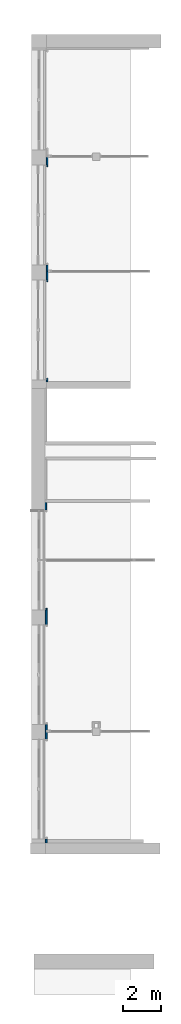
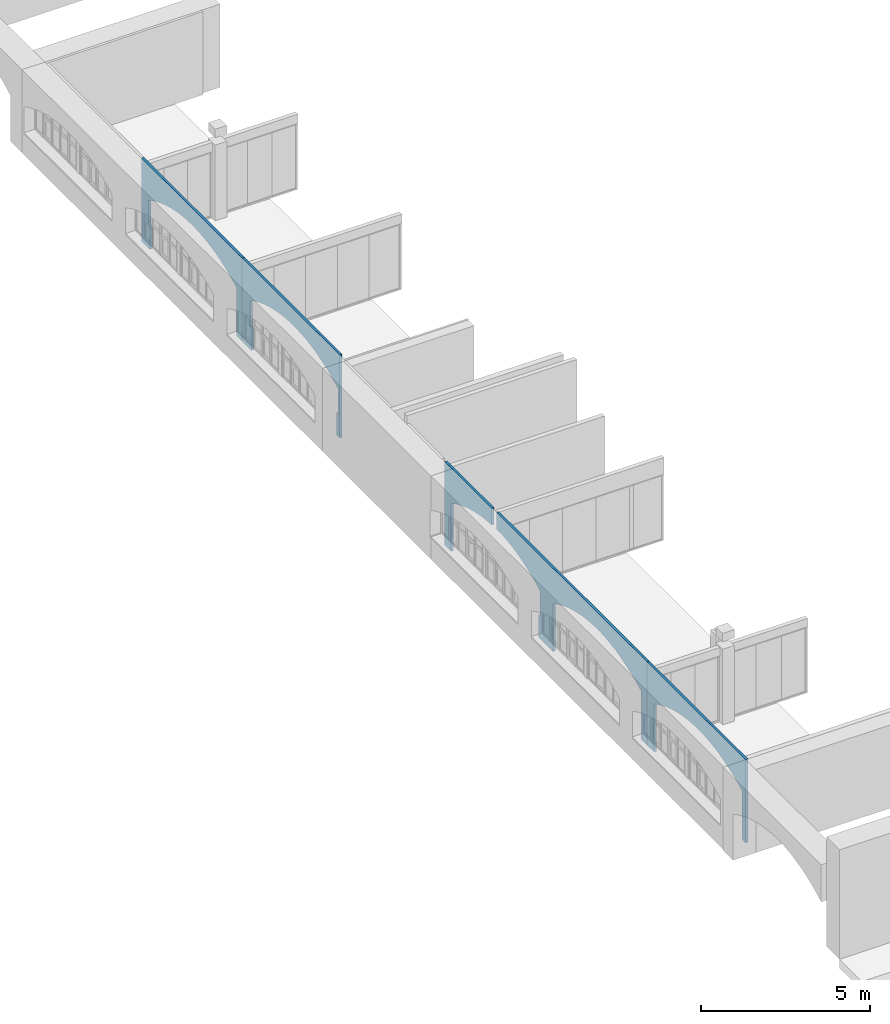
# One storey, part 32 of 32: 5 walls.
"""IFC2X3 building model written with IfcOpenShell, lengths in millimetres."""

from ifc_helpers import new_model, entity, si_unit, converted_unit, derived_unit, direction, frame, origin, place, context, subcontext, project, spatial, faceted_brep, material, layer, layer_set, type_object, element, save


model = new_model("IFC2X3")

# Units and contexts
model_context = context("Model", 3, precision=0.01, world=origin(), true_north=direction((6.123031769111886e-17, 1.0)))
body_context = subcontext(model_context, "Body", "Model", "MODEL_VIEW")
ifc_project = project(units=[si_unit("LENGTHUNIT", "METRE", prefix="MILLI"), si_unit("AREAUNIT", "SQUARE_METRE"), si_unit("VOLUMEUNIT", "CUBIC_METRE"), converted_unit("PLANEANGLEUNIT", "DEGREE", entity("IfcPlaneAngleMeasure", 0.017453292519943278), si_unit("PLANEANGLEUNIT", "RADIAN"), dimensions=[0, 0, 0, 0, 0, 0, 0]), si_unit("MASSUNIT", "GRAM", prefix="KILO"), derived_unit("MASSDENSITYUNIT", [(si_unit("MASSUNIT", "GRAM", prefix="KILO"), 1), (si_unit("LENGTHUNIT", "METRE"), -3)]), derived_unit("IONCONCENTRATIONUNIT", [(si_unit("MASSUNIT", "GRAM", prefix="KILO"), 1), (si_unit("LENGTHUNIT", "METRE"), -3)]), derived_unit("MOMENTOFINERTIAUNIT", [(si_unit("LENGTHUNIT", "METRE"), 4)]), si_unit("TIMEUNIT", "SECOND"), si_unit("FREQUENCYUNIT", "HERTZ"), si_unit("THERMODYNAMICTEMPERATUREUNIT", "DEGREE_CELSIUS"), derived_unit("THERMALTRANSMITTANCEUNIT", [(si_unit("MASSUNIT", "GRAM", prefix="KILO"), 1), (si_unit("THERMODYNAMICTEMPERATUREUNIT", "KELVIN"), -1), (si_unit("TIMEUNIT", "SECOND"), -3)]), derived_unit("THERMALCONDUCTANCEUNIT", [(si_unit("MASSUNIT", "GRAM", prefix="KILO"), 1), (si_unit("THERMODYNAMICTEMPERATUREUNIT", "KELVIN"), -1), (si_unit("TIMEUNIT", "SECOND"), -3), (si_unit("LENGTHUNIT", "METRE"), 1)]), derived_unit("VOLUMETRICFLOWRATEUNIT", [(si_unit("LENGTHUNIT", "METRE", prefix="DECI"), 3), (si_unit("TIMEUNIT", "SECOND"), -1)]), derived_unit("MASSFLOWRATEUNIT", [(si_unit("MASSUNIT", "GRAM", prefix="KILO"), 1), (si_unit("TIMEUNIT", "SECOND"), -1)]), derived_unit("ROTATIONALFREQUENCYUNIT", [(si_unit("TIMEUNIT", "SECOND"), -1)]), si_unit("ELECTRICCURRENTUNIT", "AMPERE"), si_unit("ELECTRICVOLTAGEUNIT", "VOLT"), si_unit("POWERUNIT", "WATT"), si_unit("FORCEUNIT", "NEWTON", prefix="KILO"), si_unit("ILLUMINANCEUNIT", "LUX"), si_unit("LUMINOUSFLUXUNIT", "LUMEN"), si_unit("LUMINOUSINTENSITYUNIT", "CANDELA"), si_unit("ENERGYUNIT", "JOULE"), derived_unit("USERDEFINED", [(si_unit("MASSUNIT", "GRAM", prefix="KILO"), -1), (si_unit("LENGTHUNIT", "METRE"), -2), (si_unit("TIMEUNIT", "SECOND"), 3), (si_unit("LUMINOUSFLUXUNIT", "LUMEN"), 1)]), derived_unit("USERDEFINED", [(si_unit("MASSUNIT", "GRAM", prefix="KILO"), 1), (si_unit("TIMEUNIT", "SECOND"), -3), (si_unit("LENGTHUNIT", "METRE"), 3), (si_unit("ELECTRICCURRENTUNIT", "AMPERE"), -2)]), derived_unit("SOUNDPOWERUNIT", [(si_unit("MASSUNIT", "GRAM", prefix="KILO"), 1), (si_unit("TIMEUNIT", "SECOND"), -3), (si_unit("LENGTHUNIT", "METRE"), 2)]), derived_unit("SOUNDPRESSUREUNIT", [(si_unit("MASSUNIT", "GRAM", prefix="KILO"), 1), (si_unit("LENGTHUNIT", "METRE"), -1), (si_unit("TIMEUNIT", "SECOND"), -2)]), derived_unit("LINEARVELOCITYUNIT", [(si_unit("LENGTHUNIT", "METRE"), 1), (si_unit("TIMEUNIT", "SECOND"), -1)]), si_unit("PRESSUREUNIT", "PASCAL"), derived_unit("USERDEFINED", [(si_unit("MASSUNIT", "GRAM", prefix="KILO"), 1), (si_unit("LENGTHUNIT", "METRE"), -2), (si_unit("TIMEUNIT", "SECOND"), -2)]), derived_unit("LINEARFORCEUNIT", [(si_unit("MASSUNIT", "GRAM", prefix="KILO"), 1), (si_unit("TIMEUNIT", "SECOND"), -2)]), derived_unit("PLANARFORCEUNIT", [(si_unit("MASSUNIT", "GRAM", prefix="KILO"), 1), (si_unit("LENGTHUNIT", "METRE"), -1), (si_unit("TIMEUNIT", "SECOND"), -2)]), derived_unit("SPECIFICHEATCAPACITYUNIT", [(si_unit("THERMODYNAMICTEMPERATUREUNIT", "KELVIN"), -1), (si_unit("LENGTHUNIT", "METRE"), 2), (si_unit("TIMEUNIT", "SECOND"), -2)]), derived_unit("HEATFLUXDENSITYUNIT", [(si_unit("MASSUNIT", "GRAM", prefix="KILO"), 1), (si_unit("TIMEUNIT", "SECOND"), -3)]), derived_unit("HEATINGVALUEUNIT", [(si_unit("LENGTHUNIT", "METRE"), 2), (si_unit("TIMEUNIT", "SECOND"), -2)]), derived_unit("VAPORPERMEABILITYUNIT", [(si_unit("LENGTHUNIT", "METRE"), -1), (si_unit("TIMEUNIT", "SECOND"), 1)]), derived_unit("DYNAMICVISCOSITYUNIT", [(si_unit("MASSUNIT", "GRAM", prefix="KILO"), 1), (si_unit("TIMEUNIT", "SECOND"), -1), (si_unit("LENGTHUNIT", "METRE"), -1)]), derived_unit("THERMALEXPANSIONCOEFFICIENTUNIT", [(si_unit("THERMODYNAMICTEMPERATUREUNIT", "KELVIN"), -1)]), derived_unit("MODULUSOFELASTICITYUNIT", [(si_unit("MASSUNIT", "GRAM", prefix="KILO"), 1), (si_unit("LENGTHUNIT", "METRE"), -1), (si_unit("TIMEUNIT", "SECOND"), -2)]), derived_unit("ISOTHERMALMOISTURECAPACITYUNIT", [(si_unit("MASSUNIT", "GRAM", prefix="KILO"), -1), (si_unit("LENGTHUNIT", "METRE"), 3)]), derived_unit("MOISTUREDIFFUSIVITYUNIT", [(si_unit("TIMEUNIT", "SECOND"), -1), (si_unit("LENGTHUNIT", "METRE"), 2)]), derived_unit("MASSPERLENGTHUNIT", [(si_unit("MASSUNIT", "GRAM", prefix="KILO"), 1), (si_unit("LENGTHUNIT", "METRE"), -1)]), derived_unit("THERMALRESISTANCEUNIT", [(si_unit("MASSUNIT", "GRAM", prefix="KILO"), -1), (si_unit("TIMEUNIT", "SECOND"), 3), (si_unit("THERMODYNAMICTEMPERATUREUNIT", "KELVIN"), 1)]), derived_unit("ACCELERATIONUNIT", [(si_unit("LENGTHUNIT", "METRE"), 1), (si_unit("TIMEUNIT", "SECOND"), -2)]), derived_unit("ANGULARVELOCITYUNIT", [(si_unit("TIMEUNIT", "SECOND"), -1), (si_unit("PLANEANGLEUNIT", "RADIAN"), 1)]), derived_unit("LINEARSTIFFNESSUNIT", [(si_unit("MASSUNIT", "GRAM", prefix="KILO"), 1), (si_unit("TIMEUNIT", "SECOND"), -2)]), derived_unit("WARPINGCONSTANTUNIT", [(si_unit("LENGTHUNIT", "METRE"), 6)]), derived_unit("LINEARMOMENTUNIT", [(si_unit("MASSUNIT", "GRAM", prefix="KILO"), 1), (si_unit("LENGTHUNIT", "METRE"), 1), (si_unit("TIMEUNIT", "SECOND"), -2)]), derived_unit("TORQUEUNIT", [(si_unit("MASSUNIT", "GRAM", prefix="KILO"), 1), (si_unit("LENGTHUNIT", "METRE"), 2), (si_unit("TIMEUNIT", "SECOND"), -2)])], contexts=[model_context])

# Site, building, storey
site_placement = place(None, origin())
site = spatial("IfcSite", under=ifc_project, at=site_placement, Name="Default", CompositionType="ELEMENT")
building_placement = place(site_placement, origin())
building = spatial("IfcBuilding", under=site, at=building_placement, Name="Eesti Rahvusraamatukogu hoone renoveerimise projekteerimistööd", CompositionType="ELEMENT")
storey_placement = place(building_placement, frame((0.0, 0.0, 4950.000000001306)))
storey = spatial("IfcBuildingStorey", under=building, at=storey_placement, Name="2. korrus", CompositionType="ELEMENT", Elevation=4950.000000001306)

# Walls
ifc_material_1 = material(Name="EST. Soojustus.PIR_Powerwall Pro")
ifc_layer_1 = layer(ifc_material_1, 30.0)
ifc_material_2 = material(Name="EST. Metall. Alumiinium. Mütsprofiil.")
ifc_layer_2 = layer(ifc_material_2, 42.0)
ifc_material_3 = material(Name="EST. Ehitusplaat. Kipsplaat")
ifc_layer_3 = layer(ifc_material_3, 12.5)
ifc_layer_set = layer_set([ifc_layer_1, ifc_layer_2, ifc_layer_3], Name="Basic Wall:VS-03.1 - soojustus")
wall_type = type_object("IfcWallType", Name="Basic Wall:VS-03.1 - soojustus", PredefinedType="STANDARD", material=ifc_layer_set)
wall_1_placement = place(storey_placement, frame((-35997.74999999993, 6590.0, 0.0), z_axis=(0.0, 0.0, 1.0), x_axis=(0.0, 1.0, 0.0)))
element("IfcWall", 1, at=wall_1_placement, inside=storey, type_object=wall_type, Name="Basic Wall:VS-03.1 - soojustus", ObjectType="Basic Wall:VS-03.1 - soojustus", context=body_context, shape_type="Brep", body=[
    faceted_brep([(0.0, -42.250000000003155, 1.9990693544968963e-09), (165.0, -42.25000000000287, 1.9990693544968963e-09), (206.59999999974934, -42.2500000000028, 1.9990693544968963e-09), (206.59999999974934, -42.2500000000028, 800.0), (206.59999999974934, -42.2500000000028, 1730.0), (206.59999999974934, -42.2500000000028, 1753.0777799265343), (424.03070207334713, -42.25000000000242, 1864.2817537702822), (646.2827142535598, -42.25000000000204, 1965.5026460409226), (872.8992311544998, -42.25000000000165, 2056.532556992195), (1103.4129333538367, -42.25000000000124, 2137.183833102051), (1337.3488662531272, -42.25000000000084, 2207.2903790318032), (1574.2250335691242, -42.25000000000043, 2266.707813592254), (1813.5533889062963, -42.25000000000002, 2315.3137664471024), (2054.8408397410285, -42.2499999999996, 2353.008129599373), (2297.590261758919, -42.24999999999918, 2379.713263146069), (2541.3015214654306, -42.24999999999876, 2395.3741548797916), (2785.474999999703, -42.24999999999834, 2399.9585236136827), (3034.019966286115, -42.249999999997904, 2395.190973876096), (3282.0793423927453, -42.24999999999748, 2378.9467218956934), (3529.1234685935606, -42.24999999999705, 2351.2604526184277), (3774.6248529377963, -42.249999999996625, 2312.1912821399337), (4018.059297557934, -42.25000000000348, 2261.8226314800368), (4258.907017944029, -42.25000000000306, 2200.2620484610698), (4496.653752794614, -42.25000000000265, 2127.640978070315), (4730.79186207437, -42.250000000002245, 2044.1144817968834), (4960.821410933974, -42.25000000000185, 1949.8609065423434), (5186.251237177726, -42.250000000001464, 1845.08150381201), (5406.599999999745, -42.25000000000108, 1730.0), (5406.599999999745, -42.25000000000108, 800.0), (5406.599999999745, -42.25000000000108, 0.0), (5830.0, -42.25000000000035, 0.0), (5830.0, -42.25000000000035, 3000.0), (165.0, -42.25000000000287, 3000.0), (0.0, -42.250000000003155, 3000.0), (5830.0, 42.24999999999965, 0.0), (5406.599999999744, 42.24999999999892, 0.0), (5406.599999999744, 42.24999999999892, 800.0), (5406.599999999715, 42.24999999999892, 1730.0), (5186.251237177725, 42.249999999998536, 1845.08150381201), (4960.821410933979, 42.24999999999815, 1949.8609065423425), (4730.7918620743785, 42.249999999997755, 2044.1144817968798), (4496.6537527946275, 42.24999999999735, 2127.6409780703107), (4258.9070179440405, 42.24999999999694, 2200.262048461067), (4018.059297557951, 42.24999999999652, 2261.822631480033), (3774.6248529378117, 42.250000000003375, 2312.19128213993), (3529.1234685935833, 42.25000000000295, 2351.260452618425), (3282.0793423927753, 42.25000000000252, 2378.9467218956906), (3034.0199662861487, 42.250000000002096, 2395.190973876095), (2785.474999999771, 42.25000000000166, 2399.9585236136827), (2541.3015214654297, 42.25000000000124, 2395.3741548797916), (2297.5902617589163, 42.25000000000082, 2379.713263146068), (2054.8408397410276, 42.2500000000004, 2353.0081295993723), (1813.5533889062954, 42.24999999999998, 2315.3137664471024), (1574.2250335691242, 42.24999999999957, 2266.707813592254), (1337.3488662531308, 42.24999999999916, 2207.2903790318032), (1103.4129333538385, 42.24999999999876, 2137.1838331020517), (872.8992311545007, 42.24999999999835, 2056.532556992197), (646.2827142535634, 42.24999999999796, 1965.5026460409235), (424.03070207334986, 42.24999999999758, 1864.281753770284), (206.59999999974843, 42.2499999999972, 1753.0777799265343), (206.59999999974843, 42.2499999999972, 1730.0), (206.59999999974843, 42.2499999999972, 800.0), (206.59999999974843, 42.2499999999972, 1.9990693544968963e-09), (0.0, 42.249999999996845, 1.9990693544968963e-09), (0.0, 42.249999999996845, 3000.0), (5830.0, 42.24999999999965, 3000.0), (5406.599999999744, 41.762945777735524, 0.0), (206.59999999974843, 41.76294577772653, 1.9990693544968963e-09)], [[[0, 1, 2, 3, 4, 5, 6, 7, 8, 9, 10, 11, 12, 13, 14, 15, 16, 17, 18, 19, 20, 21, 22, 23, 24, 25, 26, 27, 28, 29, 30, 31, 32, 33]], [[34, 35, 36, 37, 38, 39, 40, 41, 42, 43, 44, 45, 46, 47, 48, 49, 50, 51, 52, 53, 54, 55, 56, 57, 58, 59, 60, 61, 62, 63, 64, 65]], [[63, 0, 33, 64]], [[30, 29, 66, 35, 34]], [[1, 0, 63, 62, 67, 2]], [[31, 30, 34, 65]], [[32, 31, 65, 64, 33]], [[26, 25, 39, 38]], [[27, 26, 38, 37]], [[23, 22, 42, 41]], [[24, 23, 41, 40]], [[25, 24, 40, 39]], [[22, 21, 43, 42]], [[20, 19, 45, 44]], [[21, 20, 44, 43]], [[17, 16, 48, 47]], [[18, 17, 47, 46]], [[19, 18, 46, 45]], [[6, 5, 59, 58]], [[6, 58, 57, 7]], [[9, 8, 56, 55]], [[56, 8, 7, 57]], [[10, 9, 55, 54]], [[54, 53, 11, 10]], [[12, 11, 53, 52]], [[12, 52, 51, 13]], [[15, 14, 50, 49]], [[50, 14, 13, 51]], [[16, 15, 49, 48]], [[67, 62, 61, 60, 59, 5, 4, 3, 2]], [[66, 29, 28, 27, 37, 36, 35]]]),
])
wall_2_placement = place(storey_placement, frame((-35997.74999999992, 12420.0, 0.0), z_axis=(0.0, 0.0, 1.0), x_axis=(0.0, 1.0, 0.0)))
element("IfcWall", 2, at=wall_2_placement, inside=storey, type_object=wall_type, Name="Basic Wall:VS-03.1 - soojustus", ObjectType="Basic Wall:VS-03.1 - soojustus", context=body_context, shape_type="Brep", body=[
    faceted_brep([(0.0, -42.250000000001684, 0.0), (348.69559197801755, -42.25000000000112, 0.0), (348.69559197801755, -42.25000000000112, 800.0), (348.69559197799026, -42.25000000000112, 1730.0), (577.8614910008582, -42.250000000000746, 1849.420165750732), (812.4976425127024, -42.25000000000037, 1957.6978719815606), (1052.0626678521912, -42.24999999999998, 2054.583288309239), (1296.0038159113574, -42.24999999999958, 2139.8528699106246), (1543.7582385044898, -42.24999999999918, 2213.3098733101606), (1794.7542890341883, -42.24999999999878, 2274.784810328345), (2048.4128414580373, -42.249999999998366, 2324.1358391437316), (2304.1486265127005, -42.24999999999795, 2361.249091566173), (2561.3715821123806, -42.249999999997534, 2386.0389357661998), (2819.488214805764, -42.249999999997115, 2398.448173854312), (3077.9029691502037, -42.249999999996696, 2398.4481738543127), (3336.019601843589, -42.24999999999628, 2386.0389357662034), (3593.242557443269, -42.24999999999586, 2361.2490915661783), (3848.9783424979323, -42.249999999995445, 2324.135839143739), (4102.636894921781, -42.25000000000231, 2274.784810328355), (4353.6329454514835, -42.250000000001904, 2213.3098733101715), (4601.387368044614, -42.2500000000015, 2139.852869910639), (4845.32851610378, -42.2500000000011, 2054.5832883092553), (5084.893541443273, -42.25000000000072, 1957.697871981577), (5319.52969295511, -42.250000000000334, 1849.4201657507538), (5548.695591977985, -42.249999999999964, 1730.0), (5548.695591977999, -42.249999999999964, 800.0), (5548.695591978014, -42.249999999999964, 0.0), (6413.195591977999, -42.249999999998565, 0.0), (6413.195591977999, -42.249999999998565, 800.0), (6328.695591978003, -42.2499999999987, 800.0), (6328.695591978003, -42.2499999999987, 1730.0), (6543.679302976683, -42.24999999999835, 1842.4317147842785), (6763.513385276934, -42.25000000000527, 1945.0565789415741), (6987.750765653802, -42.2500000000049, 2037.6658858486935), (7215.935415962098, -42.25000000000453, 2120.0712973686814), (7447.603280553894, -42.25000000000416, 2192.1052268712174), (7682.283220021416, -42.25000000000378, 2253.6211800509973), (7919.497969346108, -42.250000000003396, 2304.494052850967), (8158.765108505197, -42.250000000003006, 2344.620385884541), (8399.59804356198, -42.250000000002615, 2373.9185748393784), (8641.50699624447, -42.250000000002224, 2392.329036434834), (8884.0, -42.25000000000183, 2399.814329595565), (8884.0, -42.25000000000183, 3000.0), (0.0, -42.250000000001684, 3000.0), (6328.695591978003, 42.2500000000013, 1730.0), (6328.695591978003, 42.2500000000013, 0.0), (5548.695591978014, 42.250000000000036, 0.0), (5548.695591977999, 42.250000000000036, 800.0), (5548.695591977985, 42.250000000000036, 1730.0), (5319.52969295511, 42.249999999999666, 1849.4201657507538), (5084.893541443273, 42.24999999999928, 1957.697871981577), (4845.32851610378, 42.2499999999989, 2054.5832883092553), (4601.387368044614, 42.2499999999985, 2139.852869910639), (4353.6329454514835, 42.249999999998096, 2213.3098733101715), (4102.636894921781, 42.24999999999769, 2274.784810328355), (3848.9783424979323, 42.24999999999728, 2324.135839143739), (3593.242557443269, 42.24999999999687, 2361.2490915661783), (3336.019601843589, 42.24999999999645, 2386.0389357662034), (3077.9029691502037, 42.24999999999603, 2398.4481738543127), (2819.488214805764, 42.24999999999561, 2398.448173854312), (2561.3715821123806, 42.24999999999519, 2386.0389357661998), (2304.1486265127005, 42.24999999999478, 2361.249091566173), (2048.4128414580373, 42.24999999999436, 2324.1358391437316), (1794.7542890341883, 42.249999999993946, 2274.784810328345), (1543.7582385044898, 42.24999999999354, 2213.3098733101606), (1296.0038159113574, 42.25000000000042, 2139.8528699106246), (1052.0626678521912, 42.25000000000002, 2054.583288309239), (812.4976425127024, 42.24999999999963, 1957.6978719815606), (577.8614910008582, 42.249999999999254, 1849.420165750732), (348.69559197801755, 42.24999999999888, 1730.0), (348.69559197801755, 42.24999999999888, 800.0), (348.69559197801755, 42.24999999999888, 0.0), (0.0, 42.249999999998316, 0.0), (0.0, 42.249999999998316, 3000.0), (8884.0, 42.24999999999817, 3000.0), (8884.0, 42.24999999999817, 2399.8143295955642), (8641.50699624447, 42.249999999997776, 2392.329036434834), (8399.59804356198, 42.249999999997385, 2373.9185748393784), (8158.765108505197, 42.249999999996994, 2344.620385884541), (7919.497969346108, 42.249999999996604, 2304.494052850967), (7682.283220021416, 42.24999999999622, 2253.6211800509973), (7447.603280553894, 42.24999999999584, 2192.1052268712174), (7215.935415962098, 42.24999999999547, 2120.0712973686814), (6987.750765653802, 42.2499999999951, 2037.6658858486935), (6763.513385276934, 42.24999999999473, 1945.0565789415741), (6543.679302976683, 42.25000000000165, 1842.4317147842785), (348.69559197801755, 41.762945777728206, 0.0), (5548.695591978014, 41.76294577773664, 0.0), (6328.695591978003, 41.76294577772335, 0.0), (6413.195591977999, 41.76294577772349, 0.0), (6328.695591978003, 41.76294577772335, 800.0), (6413.195591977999, 41.76294577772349, 800.0)], [[[0, 1, 2, 3, 4, 5, 6, 7, 8, 9, 10, 11, 12, 13, 14, 15, 16, 17, 18, 19, 20, 21, 22, 23, 24, 25, 26, 27, 28, 29, 30, 31, 32, 33, 34, 35, 36, 37, 38, 39, 40, 41, 42, 43]], [[44, 45, 46, 47, 48, 49, 50, 51, 52, 53, 54, 55, 56, 57, 58, 59, 60, 61, 62, 63, 64, 65, 66, 67, 68, 69, 70, 71, 72, 73, 74, 75, 76, 77, 78, 79, 80, 81, 82, 83, 84, 85]], [[1, 0, 72, 71, 86]], [[27, 26, 87, 46, 45, 88, 89]], [[42, 41, 75, 74]], [[43, 42, 74, 73]], [[0, 43, 73, 72]], [[40, 39, 77, 76]], [[41, 40, 76, 75]], [[37, 36, 80, 79]], [[38, 37, 79, 78]], [[39, 38, 78, 77]], [[36, 35, 81, 80]], [[34, 33, 83, 82]], [[35, 34, 82, 81]], [[31, 30, 44, 85]], [[32, 31, 85, 84]], [[33, 32, 84, 83]], [[29, 90, 88, 45, 44, 30]], [[90, 29, 28, 91]], [[6, 5, 67, 66]], [[4, 3, 69, 68]], [[4, 68, 67, 5]], [[7, 6, 66, 65]], [[11, 10, 62, 61]], [[12, 11, 61, 60]], [[9, 8, 64, 63]], [[10, 9, 63, 62]], [[7, 65, 64, 8]], [[13, 12, 60, 59]], [[59, 58, 14, 13]], [[17, 16, 56, 55]], [[15, 14, 58, 57]], [[15, 57, 56, 16]], [[18, 17, 55, 54]], [[22, 21, 51, 50]], [[23, 22, 50, 49]], [[20, 19, 53, 52]], [[21, 20, 52, 51]], [[18, 54, 53, 19]], [[24, 23, 49, 48]], [[25, 24, 48, 47, 46, 87, 26]], [[2, 1, 86, 71, 70, 69, 3]], [[88, 90, 91, 89]], [[28, 27, 89, 91]]]),
])
wall_3_placement = place(storey_placement, frame((-36018.77521300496, 21561.510600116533, 0.0), z_axis=(0.0, 0.0, 1.0), x_axis=(0.0, 1.0, 0.0)))
element("IfcWall", 3, at=wall_3_placement, inside=storey, type_object=wall_type, Name="Basic Wall:VS-03.1 - soojustus", ObjectType="Basic Wall:VS-03.1 - soojustus", context=body_context, shape_type="Brep", body=[
    faceted_brep([(2778.4893998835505, -42.24999999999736, 0.0), (2778.4893998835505, -42.24999999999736, 3000.0), (0.0, -42.24999999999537, 3000.0), (0.0, -42.24999999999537, 2395.789047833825), (249.55892571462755, -42.24999999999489, 2380.0934163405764), (498.1189430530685, -42.249999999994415, 2352.8183722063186), (745.1430652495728, -42.249999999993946, 2314.0228401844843), (990.0976236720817, -42.24999999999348, 2263.790633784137), (1232.4534207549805, -42.24999999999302, 2202.2302742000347), (1471.686873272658, -42.24999999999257, 2129.474755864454), (1707.2811434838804, -42.24999999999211, 2045.6812591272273), (1938.727255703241, -42.24999999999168, 1951.030810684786), (2165.525195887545, -42.249999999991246, 1845.7278924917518), (2387.1849918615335, -42.249999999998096, 1730.0), (2387.1849918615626, -42.249999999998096, 0.0), (0.0, 42.25000000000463, 3000.0), (2778.4893998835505, 42.25000000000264, 3000.0), (2778.4893998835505, 42.25000000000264, 0.0), (2387.1849918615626, 42.250000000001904, 0.0), (2387.1849918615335, 42.250000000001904, 1730.0), (2165.525195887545, 42.25000000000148, 1845.7278924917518), (1938.727255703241, 42.250000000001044, 1951.030810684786), (1707.2811434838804, 42.25000000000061, 2045.6812591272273), (1471.686873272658, 42.250000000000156, 2129.474755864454), (1232.4534207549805, 42.2499999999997, 2202.2302742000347), (990.0976236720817, 42.24999999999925, 2263.790633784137), (745.1430652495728, 42.24999999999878, 2314.0228401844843), (498.1189430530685, 42.24999999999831, 2352.8183722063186), (249.55892571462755, 42.24999999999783, 2380.0934163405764), (0.0, 42.25000000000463, 2395.789047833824)], [[[0, 1, 2, 3, 4, 5, 6, 7, 8, 9, 10, 11, 12, 13, 14]], [[15, 16, 17, 18, 19, 20, 21, 22, 23, 24, 25, 26, 27, 28, 29]], [[0, 14, 18, 17]], [[1, 0, 17, 16]], [[2, 1, 16, 15]], [[3, 2, 15, 29]], [[14, 13, 19, 18]], [[4, 3, 29, 28]], [[6, 5, 27, 26]], [[27, 5, 4, 28]], [[7, 6, 26, 25]], [[25, 24, 8, 7]], [[10, 9, 23, 22]], [[12, 11, 21, 20]], [[21, 11, 10, 22]], [[13, 12, 20, 19]], [[8, 24, 23, 9]]]),
])
wall_4_placement = place(storey_placement, frame((-35957.7499999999, 30655.0, 0.0), z_axis=(0.0, 0.0, 1.0), x_axis=(0.0, 1.0, 0.0)))
element("IfcWall", 4, at=wall_4_placement, inside=storey, type_object=wall_type, Name="Basic Wall:VS-03.1 - soojustus", ObjectType="Basic Wall:VS-03.1 - soojustus", context=body_context, shape_type="Brep", body=[
    faceted_brep([(5215.9402919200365, 42.250000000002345, 800.0), (5215.9402919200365, 42.250000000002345, 0.0), (5215.9402919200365, -42.249999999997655, 0.0), (5215.9402919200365, -42.249999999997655, 800.0), (5215.940291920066, 42.250000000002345, 1797.7782269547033), (5215.940291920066, 42.250000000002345, 1775.6682178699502), (5215.9402919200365, -42.249999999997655, 1775.6682178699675), (5215.940291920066, -42.249999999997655, 1797.7782269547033), (5300.4402919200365, 42.25000000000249, 800.0), (5300.440291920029, -42.24999999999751, 800.0), (184.9402919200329, 42.25000000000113, 800.0), (100.44029192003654, 42.25000000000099, 800.0), (100.44029192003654, -42.24999999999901, 800.0), (184.9402919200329, -42.24999999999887, 800.0), (2473.02032563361, -42.249999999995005, 2395.1909738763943), (2224.9609495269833, -42.249999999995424, 2378.94672189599), (2224.960949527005, 42.2499999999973, 2378.9467218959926), (2473.020325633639, 42.24999999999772, 2395.190973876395), (2721.565291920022, -42.249999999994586, 2399.958523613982), (2721.565291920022, 42.24999999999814, 2399.958523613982), (1732.4154389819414, -42.249999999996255, 2312.1912821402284), (1488.980994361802, -42.24999999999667, 2261.8226314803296), (1488.9809943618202, 42.24999999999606, 2261.822631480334), (1732.4154389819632, 42.24999999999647, 2312.191282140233), (1977.916823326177, -42.24999999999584, 2351.2604526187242), (1977.9168233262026, 42.24999999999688, 2351.260452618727), (1248.133273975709, -42.24999999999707, 2200.2620484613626), (1248.1332739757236, 42.25000000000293, 2200.262048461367), (1010.3865391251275, -42.24999999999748, 2127.640978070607), (776.2484298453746, -42.249999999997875, 2044.1144817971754), (776.2484298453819, 42.250000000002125, 2044.114481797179), (1010.3865391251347, 42.25000000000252, 2127.64097807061), (320.7890547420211, -42.24999999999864, 1845.081503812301), (100.44029192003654, -42.24999999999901, 1730.0), (100.44029192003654, 42.25000000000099, 1730.0), (320.78905474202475, 42.25000000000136, 1845.0815038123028), (546.2188809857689, -42.24999999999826, 1949.8609065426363), (546.2188809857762, 42.25000000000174, 1949.860906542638), (0.0, -42.24999999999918, 0.0), (184.9402919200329, -42.24999999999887, 0.0), (2980.5843927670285, -42.24999999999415, 2394.7375787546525), (3239.05557668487, -42.24999999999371, 2377.0524758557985), (3496.37565376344, -42.24999999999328, 2346.944210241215), (3751.947866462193, -42.24999999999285, 2304.4826027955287), (4005.1795104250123, -42.249999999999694, 2249.766123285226), (4255.483309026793, -42.249999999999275, 2182.921662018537), (4502.278775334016, -42.249999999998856, 2104.104235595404), (4744.99355832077, -42.24999999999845, 2013.4966274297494), (4983.064755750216, -42.249999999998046, 1911.308970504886), (5258.292214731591, -42.249999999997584, 1753.0226969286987), (5300.440291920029, -42.24999999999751, 1730.0), (5765.0, -42.249999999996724, 0.0), (5765.0, -42.249999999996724, 3000.0), (0.0, -42.24999999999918, 3000.0), (5765.0, 42.250000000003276, 0.0), (5300.440291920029, 42.25000000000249, 0.0), (5300.44029192, 42.25000000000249, 1730.0), (5258.292214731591, 42.250000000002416, 1753.0226969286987), (4983.064755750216, 42.250000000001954, 1911.308970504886), (4744.99355832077, 42.25000000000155, 2013.4966274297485), (4502.278775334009, 42.250000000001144, 2104.104235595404), (4255.483309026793, 42.250000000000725, 2182.92166201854), (4005.1795104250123, 42.250000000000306, 2249.766123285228), (3751.947866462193, 42.24999999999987, 2304.4826027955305), (3496.37565376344, 42.249999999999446, 2346.944210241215), (3239.05557668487, 42.24999999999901, 2377.0524758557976), (2980.584392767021, 42.24999999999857, 2394.7375787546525), (184.9402919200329, 42.25000000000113, 0.0), (100.44029192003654, 42.25000000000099, 0.0), (0.0, 42.25000000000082, 0.0), (0.0, 42.25000000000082, 3000.0), (5765.0, 42.250000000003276, 3000.0)], [[[0, 1, 2, 3]], [[4, 5, 6, 7]], [[8, 0, 3, 9]], [[10, 11, 12, 13]], [[14, 15, 16, 17]], [[18, 14, 17, 19]], [[20, 21, 22, 23]], [[24, 20, 23, 25]], [[15, 24, 25, 16]], [[21, 26, 27, 22]], [[28, 29, 30, 31]], [[26, 28, 31, 27]], [[32, 33, 34, 35]], [[36, 32, 35, 37]], [[29, 36, 37, 30]], [[38, 39, 13, 12, 33, 32, 36, 29, 28, 26, 21, 20, 24, 15, 14, 18, 40, 41, 42, 43, 44, 45, 46, 47, 48, 7, 6, 49, 50, 9, 3, 2, 51, 52, 53]], [[54, 55, 1, 0, 8, 56, 57, 5, 4, 58, 59, 60, 61, 62, 63, 64, 65, 66, 19, 17, 16, 25, 23, 22, 27, 31, 30, 37, 35, 34, 11, 10, 67, 68, 69, 70, 71]], [[69, 38, 53, 70]], [[52, 51, 54, 71]], [[53, 52, 71, 70]], [[8, 9, 50, 56]], [[49, 57, 56, 50]], [[6, 5, 57, 49]], [[34, 33, 12, 11]], [[40, 18, 19, 66]], [[42, 41, 65, 64]], [[65, 41, 40, 66]], [[43, 42, 64, 63]], [[63, 62, 44, 43]], [[46, 45, 61, 60]], [[48, 47, 59, 58]], [[59, 47, 46, 60]], [[7, 48, 58, 4]], [[44, 62, 61, 45]], [[39, 38, 69, 68, 67]], [[51, 2, 1, 55, 54]], [[13, 39, 67, 10]]]),
])
wall_5_placement = place(storey_placement, frame((-35957.74999999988, 36420.0, 0.0), z_axis=(0.0, 0.0, 1.0), x_axis=(0.0, 1.0, 0.0)))
element("IfcWall", 5, at=wall_5_placement, inside=storey, type_object=wall_type, Name="Basic Wall:VS-03.1 - soojustus", ObjectType="Basic Wall:VS-03.1 - soojustus", context=body_context, shape_type="Brep", body=[
    faceted_brep([(0.0, -42.249999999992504, 0.0), (337.50000000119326, -42.249999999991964, 0.0), (337.50000000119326, -42.249999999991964, 1730.0), (566.6658990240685, -42.249999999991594, 1849.4201657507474), (801.3020505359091, -42.24999999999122, 1957.6978719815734), (1040.8670758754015, -42.249999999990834, 2054.5832883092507), (1284.8082239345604, -42.24999999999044, 2139.8528699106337), (1532.5626465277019, -42.24999999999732, 2213.3098733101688), (1783.5586970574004, -42.249999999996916, 2274.7848103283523), (2037.2172494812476, -42.24999999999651, 2324.135839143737), (2292.953034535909, -42.2499999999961, 2361.2490915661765), (2550.175990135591, -42.24999999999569, 2386.0389357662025), (2808.2926228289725, -42.249999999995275, 2398.4481738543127), (3066.707377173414, -42.24999999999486, 2398.448173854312), (3324.8240098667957, -42.24999999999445, 2386.0389357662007), (3582.0469654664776, -42.24999999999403, 2361.2490915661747), (3837.782750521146, -42.249999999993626, 2324.1358391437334), (4091.4413029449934, -42.25000000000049, 2274.7848103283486), (4342.437353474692, -42.25000000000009, 2213.3098733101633), (4590.191776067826, -42.249999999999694, 2139.8528699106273), (4834.132924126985, -42.249999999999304, 2054.5832883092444), (5073.697949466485, -42.24999999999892, 1957.6978719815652), (5308.334100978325, -42.24999999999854, 1849.4201657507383), (5537.500000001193, -42.249999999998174, 1730.0), (5537.500000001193, -42.249999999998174, 800.0), (5453.0000000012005, -42.24999999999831, 800.0), (5453.000000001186, -42.24999999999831, 0.0), (5955.0, -42.249999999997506, 0.0), (5955.0, -42.249999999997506, 3000.0), (0.0, -42.249999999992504, 3000.0), (5955.0, 42.250000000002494, 0.0), (5537.500000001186, 42.250000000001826, 0.0), (5453.000000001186, 42.25000000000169, 0.0), (5453.0000000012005, 42.25000000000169, 800.0), (5537.500000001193, 42.250000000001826, 800.0), (5537.500000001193, 42.250000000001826, 1730.0), (5308.334100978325, 42.25000000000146, 1849.4201657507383), (5073.697949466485, 42.25000000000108, 1957.6978719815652), (4834.132924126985, 42.250000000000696, 2054.5832883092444), (4590.191776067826, 42.250000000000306, 2139.8528699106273), (4342.437353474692, 42.24999999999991, 2213.3098733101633), (4091.4413029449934, 42.24999999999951, 2274.7848103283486), (3837.782750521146, 42.250000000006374, 2324.1358391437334), (3582.0469654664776, 42.25000000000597, 2361.2490915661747), (3324.8240098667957, 42.25000000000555, 2386.0389357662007), (3066.707377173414, 42.25000000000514, 2398.448173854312), (2808.2926228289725, 42.250000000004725, 2398.4481738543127), (2550.175990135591, 42.25000000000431, 2386.0389357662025), (2292.953034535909, 42.2500000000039, 2361.2490915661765), (2037.2172494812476, 42.25000000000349, 2324.135839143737), (1783.5586970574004, 42.250000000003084, 2274.7848103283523), (1532.5626465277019, 42.25000000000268, 2213.3098733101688), (1284.8082239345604, 42.25000000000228, 2139.8528699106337), (1040.8670758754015, 42.25000000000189, 2054.5832883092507), (801.3020505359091, 42.250000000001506, 1957.6978719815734), (566.6658990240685, 42.25000000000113, 1849.4201657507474), (337.50000000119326, 42.25000000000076, 1730.0), (337.50000000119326, 42.25000000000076, 0.0), (0.0, 42.25000000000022, 0.0), (0.0, 42.25000000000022, 3000.0), (5955.0, 42.250000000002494, 3000.0)], [[[0, 1, 2, 3, 4, 5, 6, 7, 8, 9, 10, 11, 12, 13, 14, 15, 16, 17, 18, 19, 20, 21, 22, 23, 24, 25, 26, 27, 28, 29]], [[30, 31, 32, 33, 34, 35, 36, 37, 38, 39, 40, 41, 42, 43, 44, 45, 46, 47, 48, 49, 50, 51, 52, 53, 54, 55, 56, 57, 58, 59, 60]], [[1, 0, 58, 57]], [[27, 26, 32, 31, 30]], [[28, 27, 30, 60]], [[29, 28, 60, 59]], [[0, 29, 59, 58]], [[34, 24, 23, 35]], [[23, 22, 36, 35]], [[20, 19, 39, 38]], [[21, 20, 38, 37]], [[22, 21, 37, 36]], [[17, 16, 42, 41]], [[18, 17, 41, 40]], [[14, 13, 45, 44]], [[15, 14, 44, 43]], [[16, 15, 43, 42]], [[19, 18, 40, 39]], [[13, 12, 46, 45]], [[12, 11, 47, 46]], [[9, 8, 50, 49]], [[10, 9, 49, 48]], [[11, 10, 48, 47]], [[6, 5, 53, 52]], [[7, 6, 52, 51]], [[3, 2, 56, 55]], [[4, 3, 55, 54]], [[5, 4, 54, 53]], [[8, 7, 51, 50]], [[34, 33, 25, 24]], [[2, 1, 57, 56]], [[33, 32, 26, 25]]]),
])

save(model, "model.ifc")
